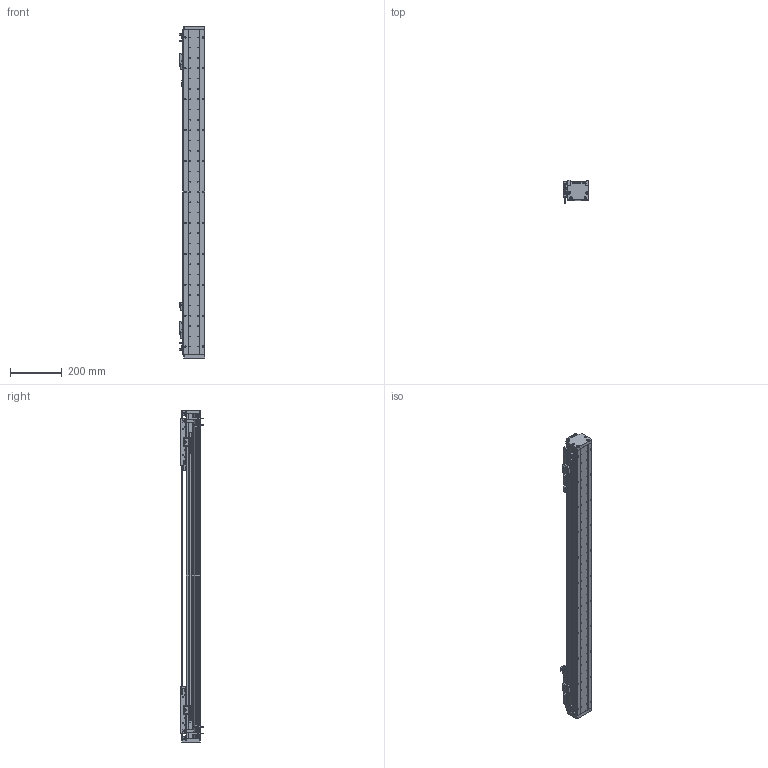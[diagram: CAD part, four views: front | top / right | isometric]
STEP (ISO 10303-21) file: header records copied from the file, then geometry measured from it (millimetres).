
FILE_DESCRIPTION (( 'STEP AP203' ), '1' );
FILE_NAME ('DA-A82-2-B2-T840-C010-0.2 眻盄萇儂.STEP', '2025-08-13T02:32:06', ( '' ), ( '' ), 'SwSTEP 2.0', 'SolidWorks 2019', '' );
FILE_SCHEMA (( 'CONFIG_CONTROL_DESIGN' ));
Length unit declared in the file: millimetre
Products named in the file (29): IU-AU82-L 菁釱絳寢; 复件 XD-U-02  磁栅尺^DA-A82-B2-T-C010-0.2-N 直线电机; 复件 DKW-GJ-XJ-00 防撞橡胶^DA-A82-B2-T-C010-0.2-N 直线电机; 复件 BKM02-W040-C1-TP-DA-3.0 直线电机动子^DA-A82-B2-T-C010-0.2-N 直线电机; 复件 复件 17517-0000-004-00  钢带压块^DA-A82-B2-T-C010-0.2-N 直线电机(默认); 复件 复件 17517-0000-003-00 钢带拉块^DA-A82-B2-T-C010-0.2-N 直线电机; 葩璃 BKM01-W040-TRL^DA-A82-B2-T-C010-0.2-N 眻盄萇儂; AU82-M-00 珨极趙賑雄怢啣; DA-A82-2-B2-T840-C010-0.2 眻盄萇儂; AU82-M 幗紩賑怢-1; 葩璃 PM-L25^DA-A82-B2-T-C010-0.2-N 眻盄萇儂; 复件 DA60-DMT-DTJ-00 读数头支架^DA-A82-B2-T-C010-0.2-N 直线电机; 复件 复件 复件 DA82 钢带盖板^DA-A82-B2-T-C010-0.2-N 直线电机(默认); 复件 复件 DA82-XJ-00 缓冲橡胶^DA-A82-B2-T-C010-0.2-N 直线电机; 复件 六角薄螺母 M3^DA-A82-B2-T-C010-0.2-N 直线电机; 葩璃 DA82-B2-DP-00 結え^AU82-M 幗紩賑怢; 复件 DA82-GDZ-ZJ-00 中间光电固定座^DA-A82-B2-T-C010-0.2-N 直线电机; AU82-HT-M-00 賑雄怢啣; 复件 复件 17517-0000-002-00 端板^DA-A82-B2-T-C010-0.2-N 直线电机; DA-A60-GYP-DMT-00 光电感应片^DA-A82-B2-T-C010-0.2-N 直线电机(默认); 复件 DA82-GYP-ZJ-00 中间光电感应片^DA-A82-B2-T-C010-0.2-N 直线电机; 葩璃 PM-T45^DA-A82-B2-T-C010-0.2-N 眻盄萇儂; 复件 DA95-B2-GT-00 滑块钢轨^AU82-M-00 一体化滑动台板; 葩璃 DMT-010 1米m 0.2M^DA-A82-B2-T-C010-0.2-N 眻盄萇儂; 复件 纯铜油杯 6x6mm^AU82-M 滚珠滑台; AU82-M-00 珨极趙賑雄怢啣-1; 复件 DA95-GT-T-00 底座钢轨^IU-AU82-L 底座导轨; AU82-M 幗紩賑怢; IU-AU82-L-00 菁釱(L1260)
Assembly tree (61 placements, depth 4):
  DA-A82-2-B2-T840-C010-0.2 眻盄萇儂
    IU-AU82-L 菁釱絳寢
      IU-AU82-L-00 菁釱(L1260)
      复件 DA95-GT-T-00 底座钢轨^IU-AU82-L 底座导轨  x2
    AU82-M 幗紩賑怢
      AU82-M-00 珨极趙賑雄怢啣
        AU82-HT-M-00 賑雄怢啣
        复件 DA95-B2-GT-00 滑块钢轨^AU82-M-00 一体化滑动台板  x4
      葩璃 DA82-B2-DP-00 結え^AU82-M 幗紩賑怢  x2
      复件 纯铜油杯 6x6mm^AU82-M 滚珠滑台  x2
    AU82-M 幗紩賑怢-1
      AU82-M-00 珨极趙賑雄怢啣-1
        AU82-HT-M-00 賑雄怢啣
        复件 DA95-B2-GT-00 滑块钢轨^AU82-M-00 一体化滑动台板  x4
      葩璃 DA82-B2-DP-00 結え^AU82-M 幗紩賑怢  x2
      复件 纯铜油杯 6x6mm^AU82-M 滚珠滑台  x2
    复件 BKM02-W040-C1-TP-DA-3.0 直线电机动子^DA-A82-B2-T-C010-0.2-N 直线电机  x2
    复件 DA60-DMT-DTJ-00 读数头支架^DA-A82-B2-T-C010-0.2-N 直线电机  x2
    葩璃 DMT-010 1米m 0.2M^DA-A82-B2-T-C010-0.2-N 眻盄萇儂  x2
    DA-A60-GYP-DMT-00 光电感应片^DA-A82-B2-T-C010-0.2-N 直线电机(默认)  x2
    复件 DA82-GDZ-ZJ-00 中间光电固定座^DA-A82-B2-T-C010-0.2-N 直线电机
    葩璃 PM-L25^DA-A82-B2-T-C010-0.2-N 眻盄萇儂
    复件 DA82-GYP-ZJ-00 中间光电感应片^DA-A82-B2-T-C010-0.2-N 直线电机
    复件 DKW-GJ-XJ-00 防撞橡胶^DA-A82-B2-T-C010-0.2-N 直线电机
    复件 复件 17517-0000-003-00 钢带拉块^DA-A82-B2-T-C010-0.2-N 直线电机  x2
    复件 复件 DA82-XJ-00 缓冲橡胶^DA-A82-B2-T-C010-0.2-N 直线电机  x2
    复件 复件 17517-0000-004-00  钢带压块^DA-A82-B2-T-C010-0.2-N 直线电机(默认)  x2
    复件 复件 17517-0000-002-00 端板^DA-A82-B2-T-C010-0.2-N 直线电机  x2
    复件 复件 复件 DA82 钢带盖板^DA-A82-B2-T-C010-0.2-N 直线电机(默认)
    葩璃 BKM01-W040-TRL^DA-A82-B2-T-C010-0.2-N 眻盄萇儂
    葩璃 PM-T45^DA-A82-B2-T-C010-0.2-N 眻盄萇儂  x4
    复件 XD-U-02  磁栅尺^DA-A82-B2-T-C010-0.2-N 直线电机
    复件 六角薄螺母 M3^DA-A82-B2-T-C010-0.2-N 直线电机  x8
Bounding box: 98.95 x 87.2 x 1288 mm (x, y, z)
Volume: 4270562.8 mm3; surface area: 1261865.5 mm2
Topology: 70 solids, 118 shells, 3259 faces, 8345 edges, 5166 vertices
Faces by surface type: cylinder 1443, plane 1324, cone 456, bspline 16, torus 16, sphere 4
Entity records: 65073 total; most frequent: CARTESIAN_POINT 14057, DIRECTION 10115, ORIENTED_EDGE 9472, EDGE_CURVE 4736, AXIS2_PLACEMENT_3D 3819, VERTEX_POINT 3070, LINE 2477, VECTOR 2477
